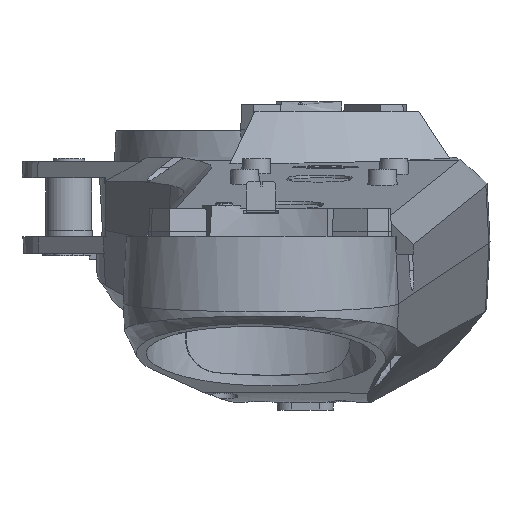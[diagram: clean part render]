
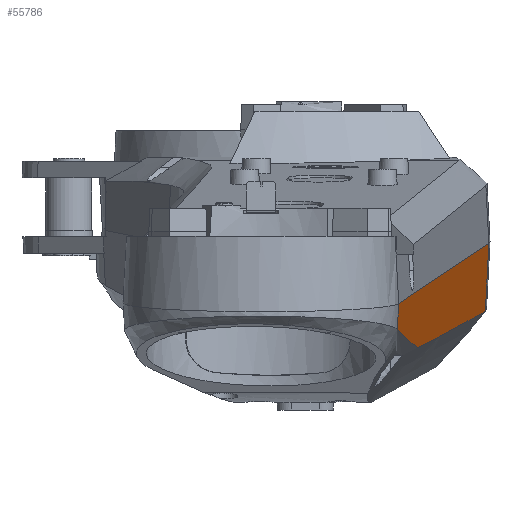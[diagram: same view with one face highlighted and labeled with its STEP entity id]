
A CAD part, top view. The second image highlights one B-rep face of the part: STEP entity #55786.
In plain terms, the highlighted planar face has unit normal (0.994, -0.059, 0.092).
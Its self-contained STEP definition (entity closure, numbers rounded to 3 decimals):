
#2130 = CARTESIAN_POINT ( 'NONE',  ( 489.847, -348.596, 1827.748 ) ) ;
#2428 = CARTESIAN_POINT ( 'NONE',  ( 498.434, -344.319, 1737.536 ) ) ;
#2491 = ORIENTED_EDGE ( 'NONE', *, *, #31508, .T. ) ;
#2721 = CARTESIAN_POINT ( 'NONE',  ( 522.775, -330.535, 1482.879 ) ) ;
#3025 = CARTESIAN_POINT ( 'NONE',  ( 468.766, -330.011, 2067.739 ) ) ;
#3315 = CARTESIAN_POINT ( 'NONE',  ( 471.099, -332.248, 2041.068 ) ) ;
#3608 = CARTESIAN_POINT ( 'NONE',  ( 553.202, -313.303, 1164.558 ) ) ;
#4813 = CARTESIAN_POINT ( 'NONE',  ( 562.077, -308.265, 1071.715 ) ) ;
#6728 = CARTESIAN_POINT ( 'NONE',  ( 468.306, -329.476, 2073.066 ) ) ;
#7346 = CARTESIAN_POINT ( 'NONE',  ( 484.884, -345.104, 1883.681 ) ) ;
#7648 = CARTESIAN_POINT ( 'NONE',  ( 494.377, -346.616, 1779.979 ) ) ;
#7955 = CARTESIAN_POINT ( 'NONE',  ( 485.117, -345.339, 1881.015 ) ) ;
#9750 = CARTESIAN_POINT ( 'NONE',  ( 567.204, -233.752, 1063.701 ) ) ;
#10387 = DIRECTION ( 'NONE',  ( -0.096, -0.066, 0.993 ) ) ;
#11375 = CARTESIAN_POINT ( 'NONE',  ( 468.421, -329.609, 2071.734 ) ) ;
#11471 = EDGE_CURVE ( 'NONE', #15457, #31740, #39769, .T. ) ;
#11675 = CARTESIAN_POINT ( 'NONE',  ( 495.391, -346.043, 1769.368 ) ) ;
#11990 = CARTESIAN_POINT ( 'NONE',  ( 472.516, -333.325, 2025.044 ) ) ;
#12286 = CARTESIAN_POINT ( 'NONE',  ( 468.997, -330.276, 2065.075 ) ) ;
#12587 = CARTESIAN_POINT ( 'NONE',  ( 488.393, -348.245, 1843.707 ) ) ;
#14460 = FACE_OUTER_BOUND ( 'NONE', #42988, .T. ) ;
#14616 = ORIENTED_EDGE ( 'NONE', *, *, #27885, .T. ) ;
#15457 = VERTEX_POINT ( 'NONE', #9750 ) ;
#16319 = CARTESIAN_POINT ( 'NONE',  ( 490.837, -348.456, 1817.123 ) ) ;
#16629 = CARTESIAN_POINT ( 'NONE',  ( 486.511, -346.759, 1865.02 ) ) ;
#17235 = CARTESIAN_POINT ( 'NONE',  ( 487.211, -347.427, 1857.024 ) ) ;
#18144 = CARTESIAN_POINT ( 'NONE',  ( 557.766, -310.722, 1116.81 ) ) ;
#19283 = VERTEX_POINT ( 'NONE', #36402 ) ;
#19303 = DIRECTION ( 'NONE',  ( -0.052, -0.996, -0.071 ) ) ;
#20978 = CARTESIAN_POINT ( 'NONE',  ( 478.138, -338.341, 1961.005 ) ) ;
#21292 = CARTESIAN_POINT ( 'NONE',  ( 500.462, -343.171, 1716.315 ) ) ;
#21600 = CARTESIAN_POINT ( 'NONE',  ( 530.889, -325.94, 1397.994 ) ) ;
#21903 = CARTESIAN_POINT ( 'NONE',  ( 472.987, -333.706, 2019.704 ) ) ;
#22197 = CARTESIAN_POINT ( 'NONE',  ( 475.333, -335.736, 1993.016 ) ) ;
#23396 = CARTESIAN_POINT ( 'NONE',  ( 562.331, -308.108, 1069.063 ) ) ;
#25928 = CARTESIAN_POINT ( 'NONE',  ( 485.582, -345.811, 1875.684 ) ) ;
#26228 = CARTESIAN_POINT ( 'NONE',  ( 492.095, -347.917, 1803.853 ) ) ;
#26849 = CARTESIAN_POINT ( 'NONE',  ( 490.588, -348.511, 1819.778 ) ) ;
#27141 = CARTESIAN_POINT ( 'NONE',  ( 563.091, -307.689, 1061.104 ) ) ;
#27691 = CARTESIAN_POINT ( 'NONE',  ( 469.309, -300.95, 2080.377 ) ) ;
#27885 = EDGE_CURVE ( 'NONE', #19283, #53724, #43649, .T. ) ;
#28326 = CARTESIAN_POINT ( 'NONE',  ( 561.57, -308.557, 1077.02 ) ) ;
#30250 = CARTESIAN_POINT ( 'NONE',  ( 486.977, -347.212, 1859.689 ) ) ;
#30566 = CARTESIAN_POINT ( 'NONE',  ( 469.692, -331.017, 2057.08 ) ) ;
#30926 = VECTOR ( 'NONE', #10387, 1000. ) ;
#31508 = EDGE_CURVE ( 'NONE', #31740, #19283, #38169, .T. ) ;
#31740 = VERTEX_POINT ( 'NONE', #55733 ) ;
#32060 = CARTESIAN_POINT ( 'NONE',  ( 555.23, -312.156, 1143.336 ) ) ;
#32183 = AXIS2_PLACEMENT_3D ( 'NONE', #46940, #51278, #47248 ) ;
#32361 = CARTESIAN_POINT ( 'NONE',  ( 563.346, -307.531, 1058.453 ) ) ;
#32505 = ORIENTED_EDGE ( 'NONE', *, *, #11471, .T. ) ;
#32667 = CARTESIAN_POINT ( 'NONE',  ( 560.555, -309.132, 1087.631 ) ) ;
#32821 = DIRECTION ( 'NONE',  ( -0.052, -0.996, -0.071 ) ) ;
#33671 = CARTESIAN_POINT ( 'NONE',  ( 563.346, -307.531, 1058.453 ) ) ;
#35171 = CARTESIAN_POINT ( 'NONE',  ( 467.848, -328.89, 2078.389 ) ) ;
#35480 = CARTESIAN_POINT ( 'NONE',  ( 506.548, -339.725, 1652.651 ) ) ;
#35794 = CARTESIAN_POINT ( 'NONE',  ( 468.076, -329.201, 2075.729 ) ) ;
#36086 = CARTESIAN_POINT ( 'NONE',  ( 482.793, -342.962, 1907.674 ) ) ;
#36402 = CARTESIAN_POINT ( 'NONE',  ( 467.848, -328.89, 2078.389 ) ) ;
#37006 = CARTESIAN_POINT ( 'NONE',  ( 558.273, -310.436, 1111.504 ) ) ;
#38169 = LINE ( 'NONE', #27691, #55414 ) ;
#39344 = EDGE_CURVE ( 'NONE', #15457, #53724, #42084, .T. ) ;
#39455 = CARTESIAN_POINT ( 'NONE',  ( 568.421, -232.917, 1051.067 ) ) ;
#39769 = LINE ( 'NONE', #39455, #30926 ) ;
#40132 = CARTESIAN_POINT ( 'NONE',  ( 469.46, -330.779, 2059.746 ) ) ;
#40443 = CARTESIAN_POINT ( 'NONE',  ( 467.961, -329.056, 2077.06 ) ) ;
#40746 = CARTESIAN_POINT ( 'NONE',  ( 483.722, -343.926, 1897.011 ) ) ;
#41037 = CARTESIAN_POINT ( 'NONE',  ( 480.003, -340.152, 1939.669 ) ) ;
#42084 = LINE ( 'NONE', #46119, #54176 ) ;
#42237 = CARTESIAN_POINT ( 'NONE',  ( 562.839, -307.815, 1063.758 ) ) ;
#42988 = EDGE_LOOP ( 'NONE', ( #2491, #14616, #56747, #32505 ) ) ;
#43649 = B_SPLINE_CURVE_WITH_KNOTS ( 'NONE', 3,
 ( #35171, #40443, #35794, #6728, #11375, #3025, #12286, #40132, #30566, #59265, #53746, #3315, #54941, #11990, #21903, #49999, #22197, #44465, #20978, #41037, #49707, #36086, #40746, #7346, #7955, #25928, #59845, #59564, #16629, #30250, #17235, #44771, #12587, #50308, #2130, #26849, #16319, #54035, #49099, #26228, #54659, #58966, #49411, #7648, #11675, #2428, #21292, #35480, #54363, #2721, #21600, #45387, #56455, #3608, #32060, #18144, #37006, #61067, #56151, #32667, #51514, #50904, #28326, #4813, #23396, #42237, #27141, #32361 ),
 .UNSPECIFIED., .F., .F.,
 ( 4, 2, 2, 2, 2, 2, 2, 2, 2, 2, 2, 2, 2, 2, 2, 2, 2, 2, 2, 2, 2, 2, 2, 2, 2, 2, 2, 2, 2, 2, 2, 2, 2, 4 ),
 ( 0.008, 0.012, 0.016, 0.024, 0.032, 0.04, 0.056, 0.073, 0.105, 0.137, 0.169, 0.202, 0.21, 0.218, 0.226, 0.234, 0.25, 0.266, 0.274, 0.282, 0.29, 0.298, 0.331, 0.395, 0.524, 0.782, 0.911, 0.975, 0.991, 1.008, 1.016, 1.024, 1.032, 1.04 ),
 .UNSPECIFIED. ) ;
#44465 = CARTESIAN_POINT ( 'NONE',  ( 477.204, -337.462, 1971.674 ) ) ;
#44771 = CARTESIAN_POINT ( 'NONE',  ( 487.916, -347.989, 1849.031 ) ) ;
#45387 = CARTESIAN_POINT ( 'NONE',  ( 543.06, -319.048, 1270.665 ) ) ;
#46119 = CARTESIAN_POINT ( 'NONE',  ( 567.204, -233.752, 1063.701 ) ) ;
#46940 = CARTESIAN_POINT ( 'NONE',  ( 568.421, -232.917, 1051.067 ) ) ;
#47248 = DIRECTION ( 'NONE',  ( -0.092, 0., 0.996 ) ) ;
#47554 = PLANE ( 'NONE',  #32183 ) ;
#49099 = CARTESIAN_POINT ( 'NONE',  ( 491.589, -348.178, 1809.159 ) ) ;
#49411 = CARTESIAN_POINT ( 'NONE',  ( 493.109, -347.335, 1793.243 ) ) ;
#49707 = CARTESIAN_POINT ( 'NONE',  ( 480.933, -341.081, 1929.004 ) ) ;
#49999 = CARTESIAN_POINT ( 'NONE',  ( 474.397, -334.893, 2003.689 ) ) ;
#50308 = CARTESIAN_POINT ( 'NONE',  ( 489.358, -348.548, 1833.065 ) ) ;
#50904 = CARTESIAN_POINT ( 'NONE',  ( 561.316, -308.698, 1079.673 ) ) ;
#51278 = DIRECTION ( 'NONE',  ( 0.994, -0.059, 0.092 ) ) ;
#51514 = CARTESIAN_POINT ( 'NONE',  ( 560.809, -308.986, 1084.978 ) ) ;
#53724 = VERTEX_POINT ( 'NONE', #33671 ) ;
#53746 = CARTESIAN_POINT ( 'NONE',  ( 470.394, -331.662, 2049.076 ) ) ;
#54035 = CARTESIAN_POINT ( 'NONE',  ( 491.337, -348.291, 1811.813 ) ) ;
#54176 = VECTOR ( 'NONE', #32821, 1000. ) ;
#54363 = CARTESIAN_POINT ( 'NONE',  ( 510.605, -337.427, 1610.208 ) ) ;
#54659 = CARTESIAN_POINT ( 'NONE',  ( 492.348, -347.771, 1801.2 ) ) ;
#54941 = CARTESIAN_POINT ( 'NONE',  ( 471.572, -332.599, 2035.726 ) ) ;
#55414 = VECTOR ( 'NONE', #19303, 1000. ) ;
#55733 = CARTESIAN_POINT ( 'NONE',  ( 469.309, -300.95, 2080.377 ) ) ;
#55786 = ADVANCED_FACE ( 'NONE', ( #14460 ), #47554, .T. ) ;
#56151 = CARTESIAN_POINT ( 'NONE',  ( 559.794, -309.568, 1095.588 ) ) ;
#56455 = CARTESIAN_POINT ( 'NONE',  ( 547.117, -316.749, 1228.222 ) ) ;
#56747 = ORIENTED_EDGE ( 'NONE', *, *, #39344, .F. ) ;
#58966 = CARTESIAN_POINT ( 'NONE',  ( 492.856, -347.479, 1795.895 ) ) ;
#59265 = CARTESIAN_POINT ( 'NONE',  ( 470.159, -331.457, 2051.745 ) ) ;
#59564 = CARTESIAN_POINT ( 'NONE',  ( 486.279, -346.523, 1867.686 ) ) ;
#59845 = CARTESIAN_POINT ( 'NONE',  ( 485.814, -346.05, 1873.018 ) ) ;
#61067 = CARTESIAN_POINT ( 'NONE',  ( 559.287, -309.86, 1100.894 ) ) ;
